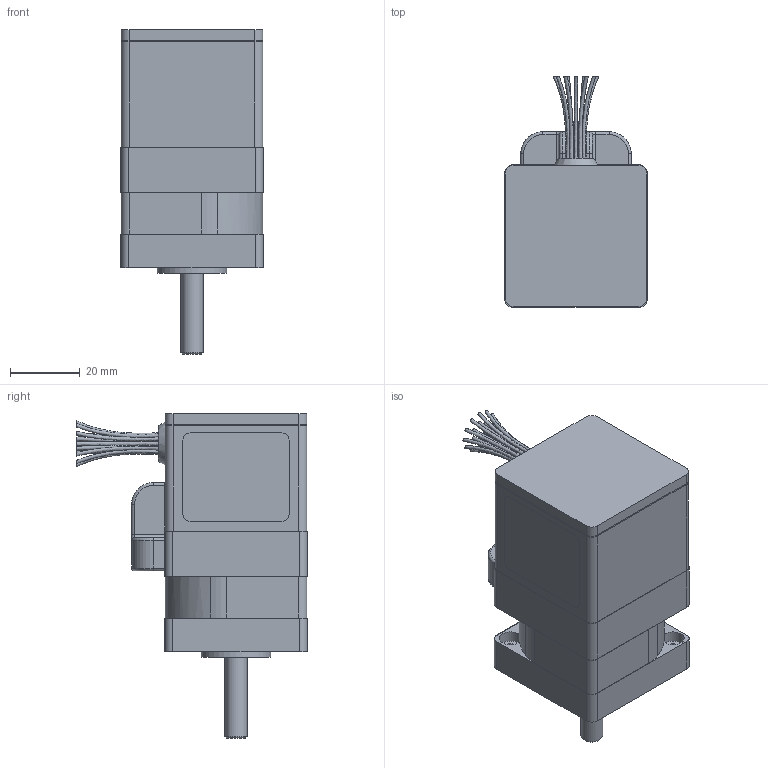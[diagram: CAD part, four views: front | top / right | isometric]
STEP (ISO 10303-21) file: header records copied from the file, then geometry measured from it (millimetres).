
FILE_DESCRIPTION((''),'2;1');
FILE_NAME('C:\CAD_work\Dummy_Modeling_Project_02-12-05\3D MODELS\BE161_FL.stp','2005-12-20T15:12:26',('jevans'),(''),'Autodesk Inventor 10','Autodesk Inventor 10','');
FILE_SCHEMA(('AUTOMOTIVE_DESIGN { 1 0 10303 214 1 1 1 1 }'));
Length unit declared in the file: inch
Products named in the file (1): BE16_FL
Bounding box: 40.89 x 66.17 x 93.37 mm (x, y, z)
Volume: 116211.4 mm3; surface area: 19161.1 mm2
Topology: 1 solids, 1 shells, 210 faces, 503 edges, 310 vertices
Faces by surface type: plane 100, cylinder 71, bspline 28, torus 10, cone 1
Full cylindrical faces by diameter (mm): 1.7 x2, 6.35 x2, 8.992 x1, 11.176 x1, 15.697 x1, 17 x1, 17.018 x2, 18.009 x1, 20.015 x1
Entity records: 8246 total; most frequent: CARTESIAN_POINT 3418, DIRECTION 1019, ORIENTED_EDGE 948, EDGE_CURVE 474, AXIS2_PLACEMENT_3D 410, VERTEX_POINT 303, EDGE_LOOP 279, CIRCLE 215
